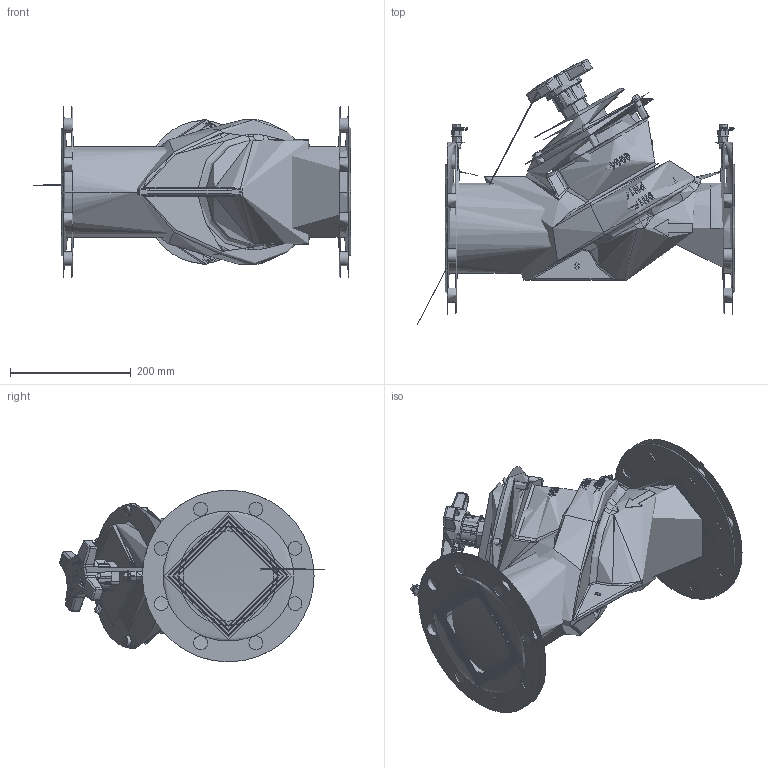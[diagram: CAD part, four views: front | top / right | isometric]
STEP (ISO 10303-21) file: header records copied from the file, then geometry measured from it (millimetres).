
FILE_DESCRIPTION(('STEP AP203'), '1');
FILE_NAME('3D_347-150-16', '', ('UNSPECIFIED'), ('UNSPECIFIED'), 'C3D Converter', 'C3D Toolkit', '');
FILE_SCHEMA(('CONFIG_CONTROL_DESIGN'));
Length unit declared in the file: millimetre
Bounding box: 526.42 x 439.13 x 285 mm (x, y, z)
Topology: 7 solids, 14 shells, 1792 faces, 4660 edges, 2970 vertices
Faces by surface type: plane 792, cylinder 417, bspline 396, torus 122, cone 51, sphere 14
Full cylindrical faces by diameter (mm): 3.5 x10, 5 x2, 8 x4, 10 x3, 11 x7, 12 x4, 12.8 x8, 13 x2, 14 x6, 15 x2, 20.8 x3, 23 x17, 24.5 x1, 25 x3, 26 x1, 28.4 x1, 36 x1, 36.5 x1, 43 x1, 56 x1, 61.5 x1, 148 x2, 150 x2, 152 x1, 153 x1, 168 x3, 172 x1, 174 x1, 240 x2, 285 x2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
Entity records: 195181 total; most frequent: CARTESIAN_POINT 141357, ORIENTED_EDGE 8858, DIRECTION 6775, EDGE_CURVE 4429, VERTEX_POINT 2949, AXIS2_PLACEMENT_3D 2442, EDGE_LOOP 2190, FACE_BOUND 1942
